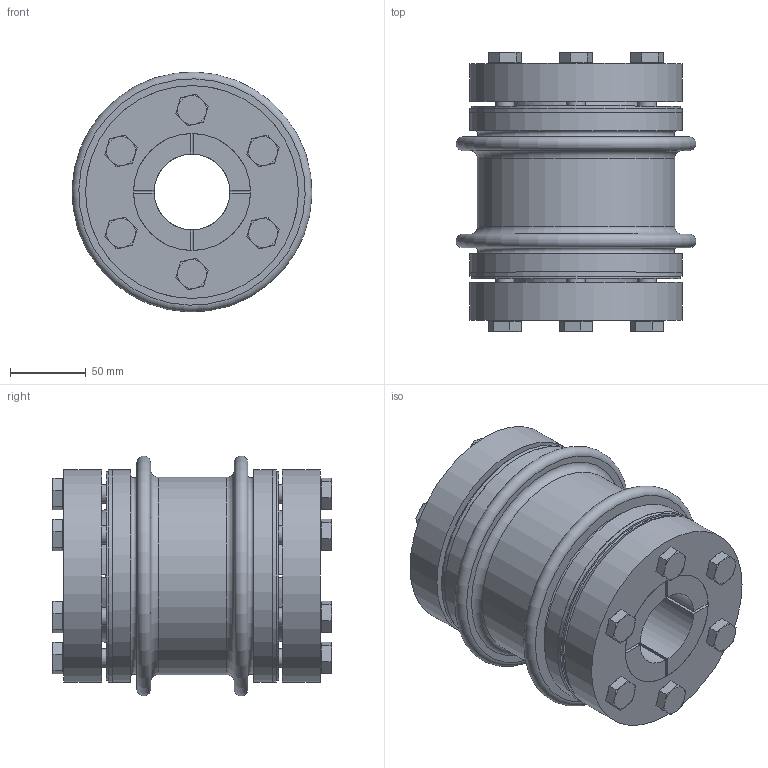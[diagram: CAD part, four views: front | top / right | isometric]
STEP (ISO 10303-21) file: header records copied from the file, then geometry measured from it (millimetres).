
FILE_DESCRIPTION( ( 'Unknown' ), '1' );
FILE_NAME( 'C:/Users/skarpstein/Desktop/KB6-1400-184-50-50.stp', 'Unknown', ( 'Unknown' ), ( 'Unknown' ), 'PSStep 16.0.42', 'Unknown', ' ' );
FILE_SCHEMA( ( 'AUTOMOTIVE_DESIGN { 1 0 10303 214 1 1 1 1 }' ) );
Length unit declared in the file: millimetre
Products named in the file (6): Assem1; BalgaufnahmeKB6_1400-184; Druckring_KB6_1400-184_3000-220; BalgaufnahmeKB6_1400-184-1; B800-3000; ISO 4017 - M12 x 40
Assembly tree (17 placements, depth 2):
  Assem1
    BalgaufnahmeKB6_1400-184
    Druckring_KB6_1400-184_3000-220  x2
    BalgaufnahmeKB6_1400-184-1
    B800-3000
    ISO 4017 - M12 x 40  x12
Bounding box: 157.94 x 184 x 157.94 mm (x, y, z)
Volume: 1167317.5 mm3; surface area: 353371.4 mm2
Topology: 17 solids, 17 shells, 376 faces, 800 edges, 498 vertices
Faces by surface type: plane 170, cone 106, cylinder 74, torus 26
Full cylindrical faces by diameter (mm): 10.2 x12, 12 x12, 14 x12, 17.4 x12, 50 x2, 126 x2, 127 x1, 130 x1, 137 x2, 137.5 x4, 140 x6
Entity records: 5106 total; most frequent: CARTESIAN_POINT 987, DIRECTION 620, ORIENTED_EDGE 478, AXIS2_PLACEMENT_3D 280, EDGE_LOOP 252, EDGE_CURVE 239, VERTEX_POINT 191, FACE_OUTER_BOUND 187
